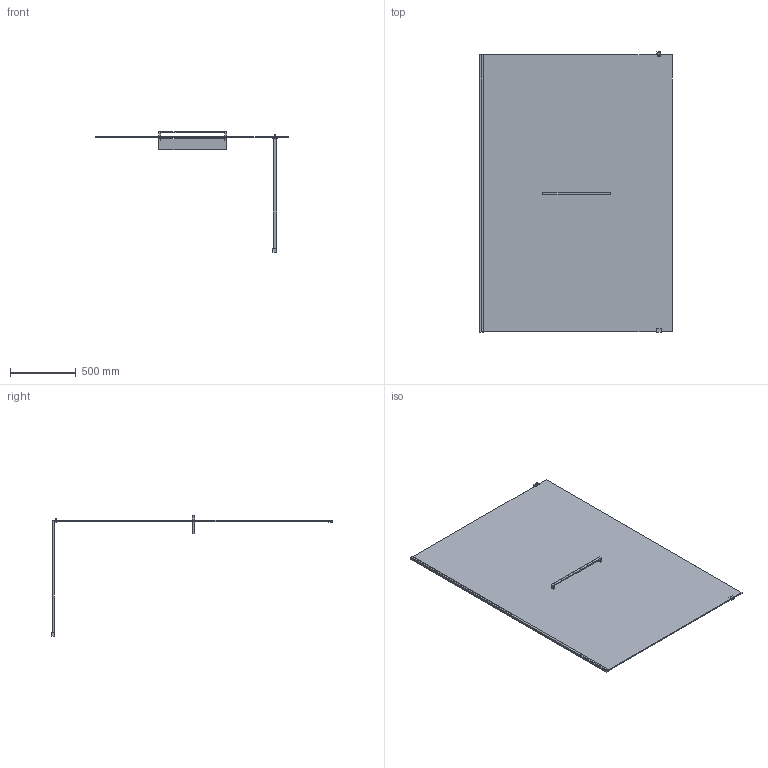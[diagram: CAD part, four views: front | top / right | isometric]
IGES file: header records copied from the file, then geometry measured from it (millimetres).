
Start section: SolidWorks IGES file using analytic representation for surfaces
Global section: file name: D:\Users\M.Szymanski\Desktop\Kabiny\PIII_ALTIIa\03. do przegrania\PIII_ALTIIa_150_z_relingiem_i_polka_K3D.IGS; native system: SolidWorks 2011; preprocessor: SolidWorks 2011; author: M.Szymanski; date: 181005.105104; units: millimetre
Bounding box: 1458.45 x 2128 x 914.13 mm (x, y, z)
Surface area: 6560224.5 mm2 (no closed solid volume)
Topology: 0 solids, 0 shells, 76 faces, 552 edges, 736 vertices
Faces by surface type: bspline 76
